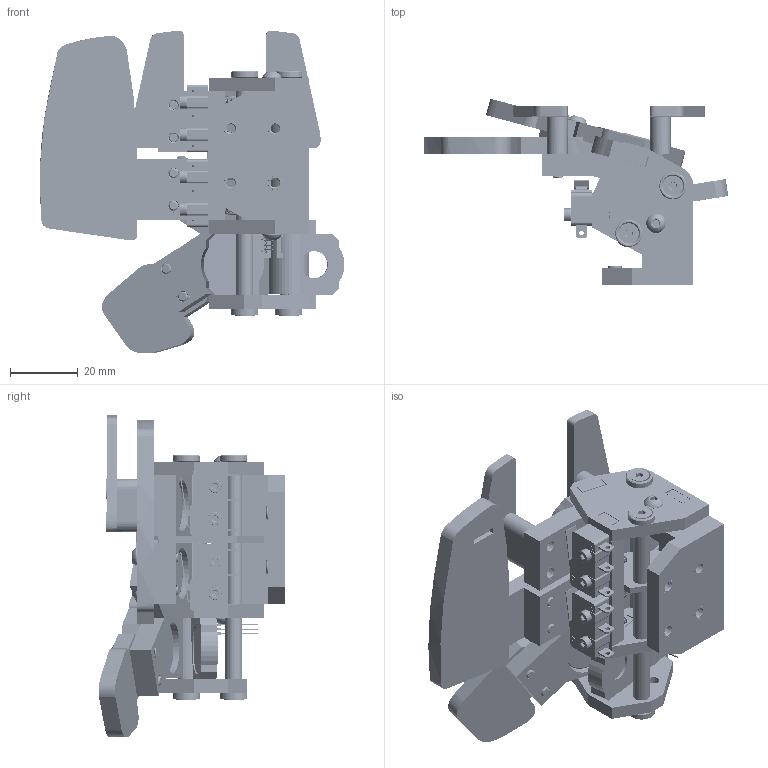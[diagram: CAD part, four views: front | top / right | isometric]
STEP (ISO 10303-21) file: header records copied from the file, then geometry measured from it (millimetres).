
FILE_DESCRIPTION(/* description */ (''),/* implementation_level */ '2;1');
FILE_NAME(/* name */ 'Left Shifter Clutch Assembly.step',/* time_stamp */ '2025-12-14T01:06:02Z',/* author */ (''),/* organization */ (''),/* preprocessor_version */ 'ST-DEVELOPER v20.1',/* originating_system */ 'Autodesk Translation Framework v14.21.0.0',/* authorisation */ '');
FILE_SCHEMA (('AUTOMOTIVE_DESIGN { 1 0 10303 214 3 1 1 }'));
Products named in the file (40): Left Shifter Clutch Assembly; Hardware; M2x16mm Socket Head Screw; 91292A002_18-8 Stainless Steel Socket Head Screw; M3x12mm Round Head Screw; 97763A421_18-8 Stainless Steel Button Head Hex Drive Screws; M3x16mm Countersunk Screw; 92125A134_18-8 Stainless Steel Hex Drive Flat Head Screw; M3 Countersunk Washer; M3x50mm Countersunk Screw; 92125A151_18-8 Stainless Steel Hex Drive Flat Head Screw; M3 18mm Female Standoff; Heat Inserts; Insert_M2; Insert_M3; Printed Parts; MPM_ShifterCover; V15_FlatMount; MPM_ShifterMagnetBracket; V15_SwitchPlate; MPM_ShifterDivider; MPM_ShifterArm; MPM_ClutchMagnetBracket; V15_ClutchArm; V15_InternalSide; V15_ClutchCover; Clutch Paddle; Downshift Paddle; Upper Paddle; MPM_ClutchMagnetAndSensorBracket; Magnets; 15x4mm Neodymium Magnet; Electronics; Microswitch - kwx11 3z b; Microswitch - kwx11 3z b_1; Microswitch-kw11-3z-b Housing; Microswitch-kw11-3z-b Button; kw11-3z-b Microswitch Spring Lever; Microswitch-kw11-3z-b Contact; SS49E
Assembly tree (88 placements, depth 4):
  Left Shifter Clutch Assembly
    Hardware
      M2x16mm Socket Head Screw  x4
        91292A002_18-8 Stainless Steel Socket Head Screw
      M3x12mm Round Head Screw  x6
        97763A421_18-8 Stainless Steel Button Head Hex Drive Screws
      M3x16mm Countersunk Screw  x4
        92125A134_18-8 Stainless Steel Hex Drive Flat Head Screw
      M3 Countersunk Washer  x4
      M3 18mm Female Standoff  x6
      M3x50mm Countersunk Screw  x2
        92125A151_18-8 Stainless Steel Hex Drive Flat Head Screw
    Heat Inserts
      Insert_M2  x4
      Insert_M3  x12
    Printed Parts
      MPM_ShifterCover
      V15_FlatMount
      MPM_ShifterArm  x2
      MPM_ShifterMagnetBracket
      V15_SwitchPlate
      MPM_ShifterDivider
      MPM_ClutchMagnetBracket
      V15_ClutchArm
      V15_InternalSide
      V15_ClutchCover
      Clutch Paddle
      Downshift Paddle
      Upper Paddle
      MPM_ClutchMagnetAndSensorBracket
    Magnets
      15x4mm Neodymium Magnet  x7
    Electronics
      Microswitch - kwx11 3z b
        Microswitch-kw11-3z-b Housing
        Microswitch-kw11-3z-b Button
        kw11-3z-b Microswitch Spring Lever
        Microswitch-kw11-3z-b Contact  x3
      Microswitch - kwx11 3z b_1
        Microswitch-kw11-3z-b Housing
        Microswitch-kw11-3z-b Button
        kw11-3z-b Microswitch Spring Lever
        Microswitch-kw11-3z-b Contact  x3
      SS49E
Bounding box: 89.74 x 55 x 95.02 mm (x, y, z)
Volume: 72205.5 mm3; surface area: 63608.4 mm2
Topology: 85 solids, 261 shells, 8347 faces, 23123 edges, 15464 vertices
Faces by surface type: plane 3021, bspline 2841, cylinder 2253, cone 204, torus 22, sphere 6
Full cylindrical faces by diameter (mm): 1.45 x6, 1.48 x144, 2 x149, 2.075 x20, 2.2 x4, 2.35 x440, 2.529 x114, 2.58 x24, 2.8 x4, 3 x440, 3.086 x120, 3.1 x8, 3.2 x4, 3.201 x2, 3.202 x6, 3.203 x15, 3.204 x2, 3.6 x12, 3.8 x16, 4 x12, 4.001 x4, 4.002 x4, 4.185 x4, 4.2 x2, 5 x6, 5.404 x2, 5.405 x2, 5.7 x6, 6 x6, 8 x4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
Entity records: 117018 total; most frequent: CARTESIAN_POINT 60550, ORIENTED_EDGE 12806, DIRECTION 9140, EDGE_CURVE 6403, VERTEX_POINT 4228, LINE 4004, VECTOR 4004, EDGE_LOOP 2611
